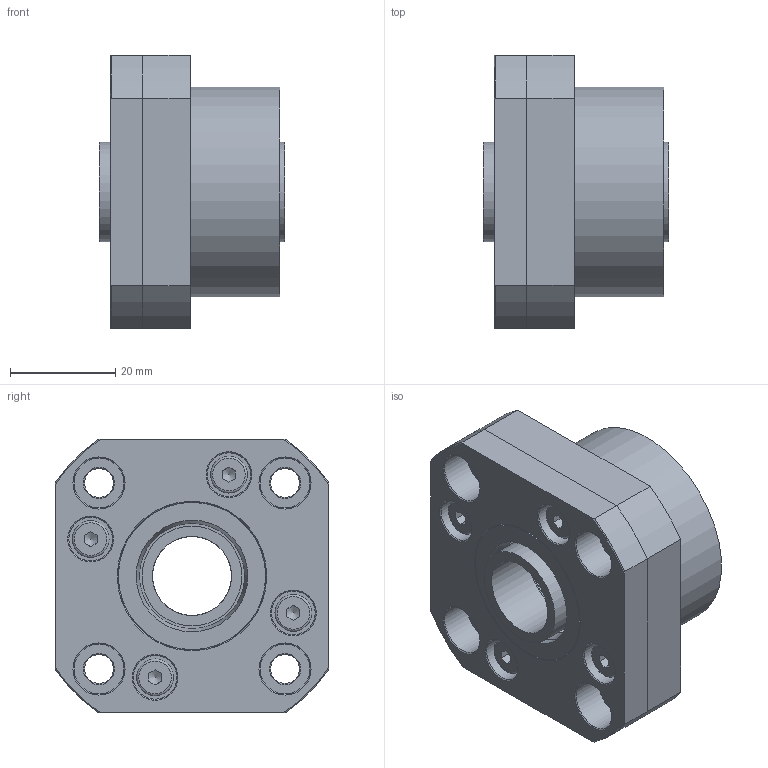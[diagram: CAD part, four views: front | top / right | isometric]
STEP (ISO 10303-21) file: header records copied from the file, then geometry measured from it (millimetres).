
FILE_DESCRIPTION(/* description */ (''),/* implementation_level */ '2;1');
FILE_NAME(/* name */ 'C:\Users\Nick_2\Dropbox\WG Projekte\Kamp und Kötter\Artikel\Lagerset Flanschlager (FK-FF)\02_STEP-Dateien\FK15-Flanschfestlager-20160127.stp',/* time_stamp */ '2016-01-27T18:05:48+01:00',/* author */ ('Nick_2'),/* organization */ (''),/* preprocessor_version */ 'ST-DEVELOPER v15.6',/* originating_system */ 'Autodesk Inventor 2015',/* authorisation */ '');
FILE_SCHEMA (('AUTOMOTIVE_DESIGN { 1 0 10303 214 3 1 1 }'));
Length unit declared in the file: millimetre
Products named in the file (10): FK15_Abdeckkappe; FK15_Flanschfestlager; Wellendichtring20x28x4; Rolling bearing 7002 C GB_T 292-94; Rolling bearing 7002 AC GB_T 292-94; FK15-Distanzscheibe; FK15-Dinstanzring_kurz; FK15-Dinstanzring_lang; DIN 7984 - M4 x 6; FK15-Flanschfestlager-20150713
Assembly tree (13 placements, depth 2):
  FK15-Flanschfestlager-20150713
    FK15_Abdeckkappe
    FK15_Flanschfestlager
    Wellendichtring20x28x4  x2
    Rolling bearing 7002 C GB_T 292-94
    Rolling bearing 7002 AC GB_T 292-94
    FK15-Distanzscheibe
    FK15-Dinstanzring_kurz
    FK15-Dinstanzring_lang
    DIN 7984 - M4 x 6  x4
Bounding box: 35.3 x 52 x 52 mm (x, y, z)
Volume: 44757.9 mm3; surface area: 31808.5 mm2
Topology: 33 solids, 33 shells, 257 faces, 587 edges, 373 vertices
Faces by surface type: plane 75, cylinder 61, torus 54, cone 49, sphere 18
Full cylindrical faces by diameter (mm): 3.242 x4, 4 x4, 4.5 x4, 5.5 x4, 7 x4, 8.3 x4, 9.5 x4, 15 x2, 15.05 x2, 19 x2, 20.542 x4, 21.2 x2, 26 x1, 26.458 x2, 28 x4, 32 x5, 40 x1
Entity records: 5254 total; most frequent: DIRECTION 1006, CARTESIAN_POINT 818, ORIENTED_EDGE 698, AXIS2_PLACEMENT_3D 481, EDGE_LOOP 366, EDGE_CURVE 313, CIRCLE 255, VERTEX_POINT 251
